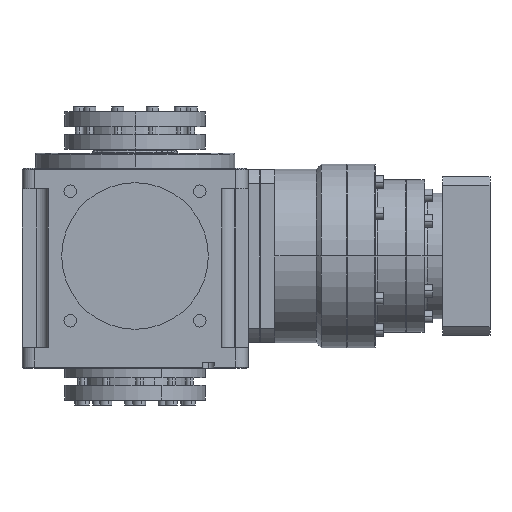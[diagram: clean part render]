
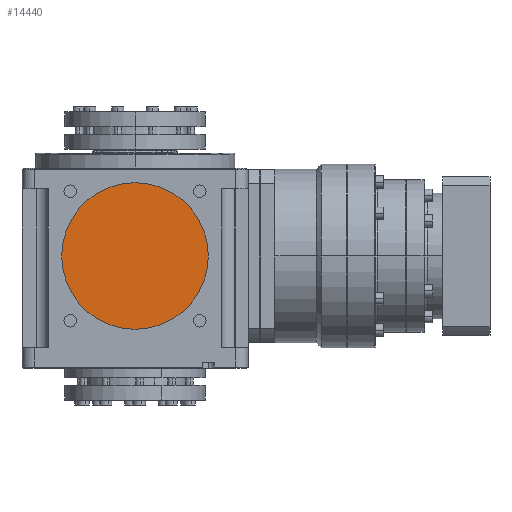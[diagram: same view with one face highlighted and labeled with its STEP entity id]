
A CAD part, left-side view. The second image highlights one B-rep face of the part: STEP entity #14440.
In plain terms, the highlighted planar face has unit normal (-1, 0, 0).
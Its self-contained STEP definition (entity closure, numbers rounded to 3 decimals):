
#1056 = DIRECTION ( 'NONE',  ( 0., 0., -1. ) ) ;
#1725 = AXIS2_PLACEMENT_3D ( 'NONE', #5019, #22487, #1056 ) ;
#3920 = EDGE_CURVE ( 'NONE', #23759, #14183, #10568, .T. ) ;
#5019 = CARTESIAN_POINT ( 'NONE',  ( -87.5, 0., 0. ) ) ;
#7851 = EDGE_CURVE ( 'NONE', #14183, #23759, #16159, .T. ) ;
#8176 = ORIENTED_EDGE ( 'NONE', *, *, #3920, .T. ) ;
#8362 = DIRECTION ( 'NONE',  ( 0., 0., -1. ) ) ;
#8413 = AXIS2_PLACEMENT_3D ( 'NONE', #22649, #8643, #16809 ) ;
#8643 = DIRECTION ( 'NONE',  ( -1., 0., 0. ) ) ;
#9007 = CARTESIAN_POINT ( 'NONE',  ( -87.5, 0., -60. ) ) ;
#9227 = PLANE ( 'NONE',  #1725 ) ;
#10568 = CIRCLE ( 'NONE', #16277, 60. ) ;
#14183 = VERTEX_POINT ( 'NONE', #17117 ) ;
#14440 = ADVANCED_FACE ( 'NONE', ( #18934 ), #9227, .T. ) ;
#14484 = CARTESIAN_POINT ( 'NONE',  ( -87.5, 0., 0. ) ) ;
#16159 = CIRCLE ( 'NONE', #8413, 60. ) ;
#16277 = AXIS2_PLACEMENT_3D ( 'NONE', #14484, #20332, #8362 ) ;
#16809 = DIRECTION ( 'NONE',  ( 0., 0., -1. ) ) ;
#17117 = CARTESIAN_POINT ( 'NONE',  ( -87.5, 0., 60. ) ) ;
#18934 = FACE_OUTER_BOUND ( 'NONE', #24649, .T. ) ;
#19112 = ORIENTED_EDGE ( 'NONE', *, *, #7851, .T. ) ;
#20332 = DIRECTION ( 'NONE',  ( -1., 0., 0. ) ) ;
#22487 = DIRECTION ( 'NONE',  ( -1., 0., 0. ) ) ;
#22649 = CARTESIAN_POINT ( 'NONE',  ( -87.5, 0., 0. ) ) ;
#23759 = VERTEX_POINT ( 'NONE', #9007 ) ;
#24649 = EDGE_LOOP ( 'NONE', ( #19112, #8176 ) ) ;
